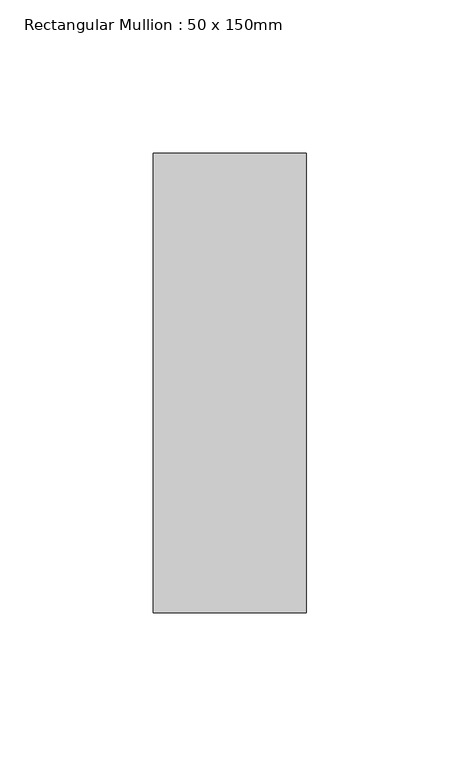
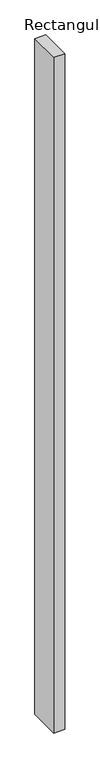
"""IFC4 building model written with IfcOpenShell, lengths in millimetres: member geometry, Rectangular Mullion : 50 x 150mm."""

from ifc_helpers import new_model, si_unit, frame, origin, place, context, project, spatial, polyline, outline, extrude, source, transform, mapped, element, save


def rectangular_mullion_50_x_150mm_567a4a66(model_context):
    return source(origin(), model_context, "Body", "SweptSolid", [
        extrude(outline(polyline([(25.0, 75.0), (25.0, -75.0), (-25.0, -75.0), (-25.0, 75.0), (25.0, 75.0)])), frame((0.0, 0.0, -3287.5), z_axis=(0.0, 0.0, 1.0), x_axis=(1.0, 0.0, 0.0)), (0.0, 0.0, 1.0), 3287.5),
    ])


if __name__ == "__main__":
    model = new_model("IFC4")
    model_context = context("Model", 3, world=origin())
    ifc_project = project(units=[si_unit("LENGTHUNIT", "METRE", prefix="MILLI")], contexts=[model_context])
    site = spatial("IfcSite", under=ifc_project)
    building = spatial("IfcBuilding", under=site)
    placement = place(None, origin())
    rectangular_mullion_50_x_150mm_shape = rectangular_mullion_50_x_150mm_567a4a66(model_context)
    element("IfcMember", 1, ObjectType="Rectangular Mullion : 50 x 150mm", at=placement, inside=building, context=model_context, shape_type="MappedRepresentation", body=[
        mapped(rectangular_mullion_50_x_150mm_shape, transform((0.0, 0.0, 0.0), x_axis=(1.0, 0.0, 0.0), y_axis=(0.0, 1.0, 0.0), z_axis=(0.0, 0.0, 1.0))),
    ])
    save(model, "model.ifc")
